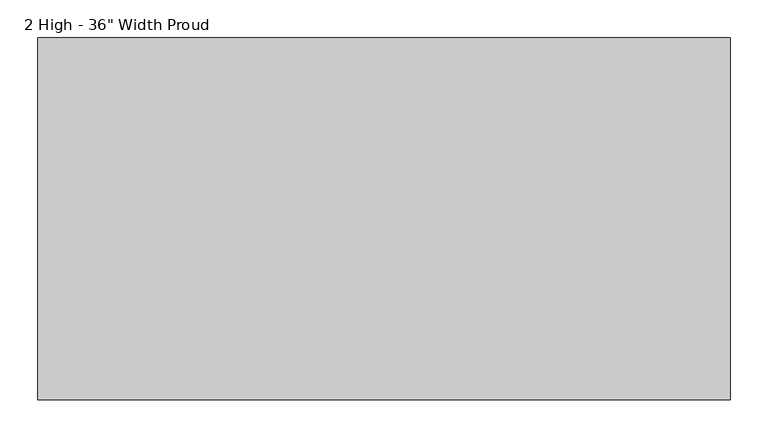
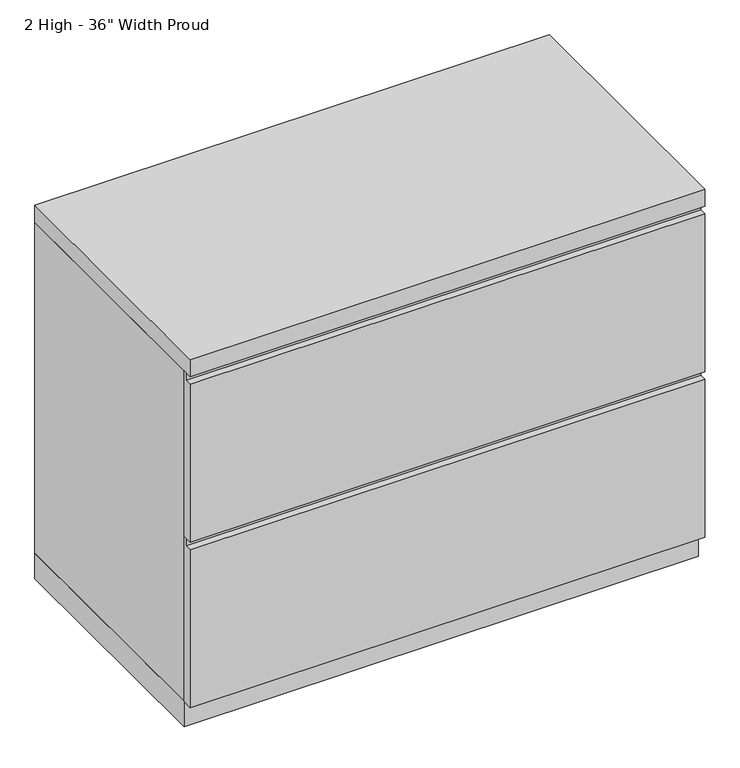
"""IFC4 building model written with IfcOpenShell, lengths in millimetres: furniture geometry."""

from ifc_helpers import new_model, si_unit, frame, origin, origin_with_axes, place, context, project, spatial, polyline, outline, extrude, source, transform, mapped, element, save


def furniture_cbb8c3fb(model_context):
    return source(origin(), model_context, "Body", "SweptSolid", [
        extrude(outline(polyline([(-457.2, 357.1875), (-476.25, 357.1875), (-476.25, 652.4625), (-463.55, 652.4625), (-463.55, 666.75), (-457.2, 666.75), (-457.2, 357.1875)])), frame((-455.6125, 0.0, 0.0), z_axis=(1.0, 0.0, 0.0), x_axis=(0.0, 1.0, 0.0)), (0.0, 0.0, 1.0), 911.225),
        extrude(outline(polyline([(-457.2, 47.625), (-476.25, 47.625), (-476.25, 342.9), (-463.55, 342.9), (-463.55, 357.1875), (-457.2, 357.1875), (-457.2, 47.625)])), frame((-455.6125, 0.0, 0.0), z_axis=(1.0, 0.0, 0.0), x_axis=(0.0, 1.0, 0.0)), (0.0, 0.0, 1.0), 911.225),
        extrude(outline(polyline([(455.6125, 0.0), (455.6125, -457.2), (-455.6125, -457.2), (-455.6125, 0.0), (455.6125, 0.0)])), origin_with_axes(), (0.0, 0.0, 1.0), 47.625),
        extrude(outline(polyline([(455.6125, 0.0), (455.6125, -476.25), (-455.6125, -476.25), (-455.6125, 0.0), (455.6125, 0.0)])), frame((0.0, 0.0, 666.75), z_axis=(0.0, 0.0, 1.0), x_axis=(1.0, 0.0, 0.0)), (0.0, 0.0, 1.0), 31.75),
        extrude(outline(polyline([(455.6125, 0.0), (455.6125, -457.2), (436.5625, -457.2), (436.5625, -19.05), (-436.5625, -19.05), (-436.5625, -457.2), (-455.6125, -457.2), (-455.6125, 0.0), (455.6125, 0.0)])), frame((0.0, 0.0, 47.625), z_axis=(0.0, 0.0, 1.0), x_axis=(1.0, 0.0, 0.0)), (0.0, 0.0, 1.0), 619.125),
    ])


if __name__ == "__main__":
    model = new_model("IFC4")
    model_context = context("Model", 3, world=origin())
    ifc_project = project(units=[si_unit("LENGTHUNIT", "METRE", prefix="MILLI")], contexts=[model_context])
    site = spatial("IfcSite", under=ifc_project)
    building = spatial("IfcBuilding", under=site)
    placement = place(None, origin())
    furniture_shape = furniture_cbb8c3fb(model_context)
    element("IfcFurniture", 1, ObjectType="Haworth_XSeries-Lateral_Files : 2 High - 36\" Width Proud", at=placement, inside=building, context=model_context, shape_type="MappedRepresentation", body=[
        mapped(furniture_shape, transform((0.0, 0.0, 0.0), x_axis=(1.0, 0.0, 0.0), y_axis=(0.0, 1.0, 0.0), z_axis=(0.0, 0.0, 1.0))),
    ])
    save(model, "model.ifc")
